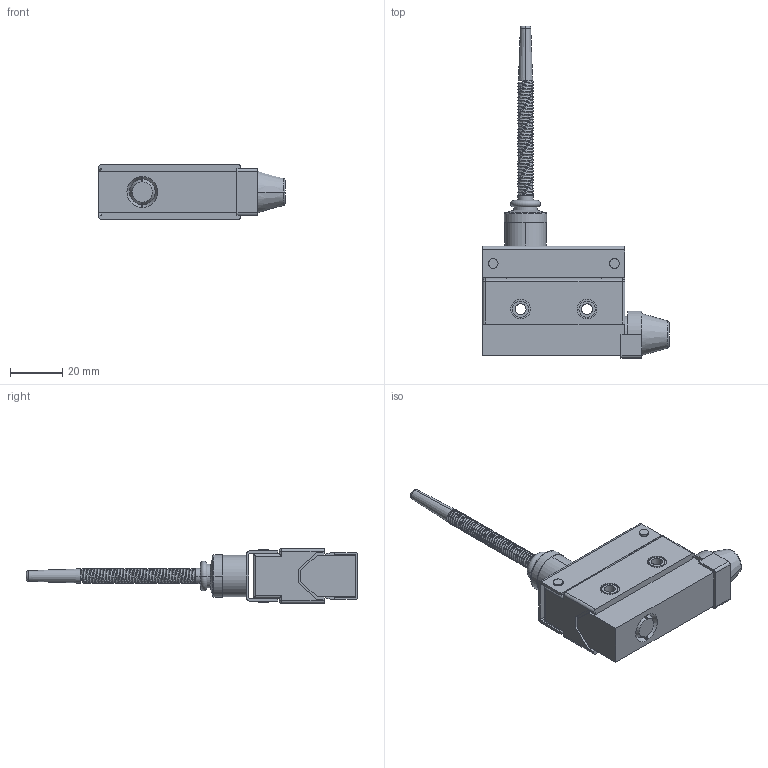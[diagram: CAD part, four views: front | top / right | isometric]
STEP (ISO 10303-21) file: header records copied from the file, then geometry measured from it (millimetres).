
FILE_DESCRIPTION (( 'STEP AP203' ), '1' );
FILE_NAME ('FM7166.STEP', '2018-06-20T16:22:58', ( '' ), ( '' ), 'SwSTEP 2.0', 'SolidWorks 2012', '' );
FILE_SCHEMA (( 'CONFIG_CONTROL_DESIGN' ));
Length unit declared in the file: millimetre
Products named in the file (1): FM7166
Bounding box: 71.5 x 127.3 x 21 mm (x, y, z)
Volume: 46445.7 mm3; surface area: 17937.7 mm2
Topology: 1 solids, 1 shells, 249 faces, 609 edges, 374 vertices
Faces by surface type: plane 102, cylinder 95, torus 28, cone 14, sphere 8, bspline 2
Entity records: 17801 total; most frequent: CARTESIAN_POINT 11809, DIRECTION 1302, ORIENTED_EDGE 1186, EDGE_CURVE 593, AXIS2_PLACEMENT_3D 497, VERTEX_POINT 372, VECTOR 308, LINE 308
